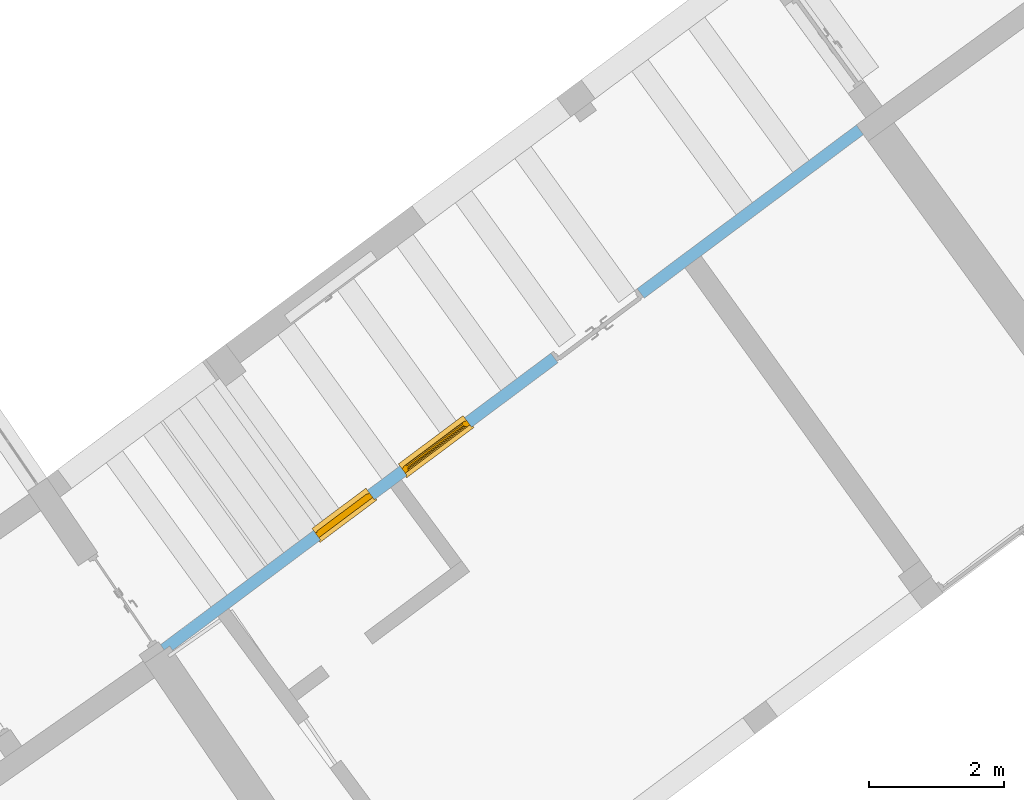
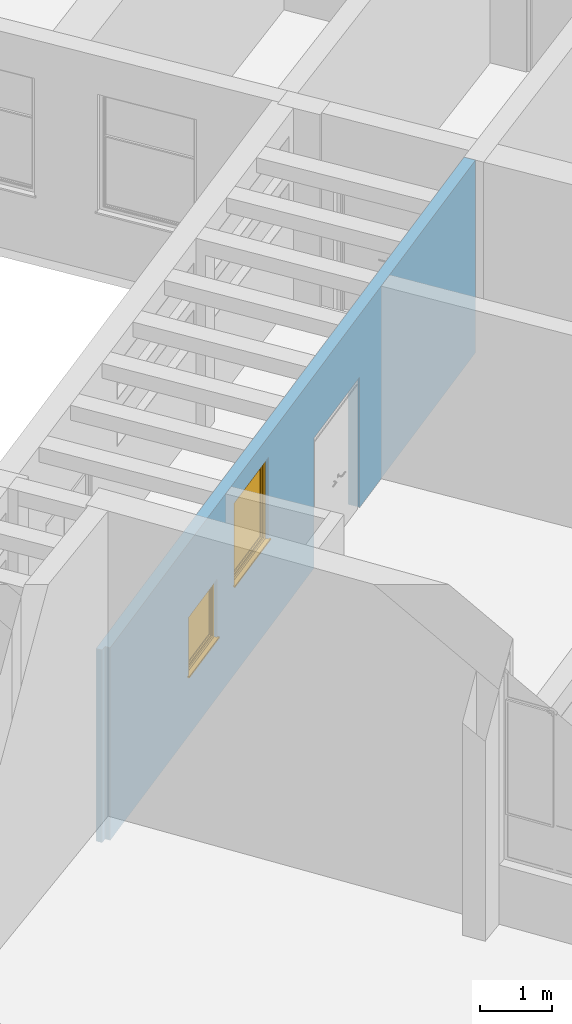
"""IFC2X3 building model written with IfcOpenShell, lengths in millimetres."""

from ifc_helpers import new_model, entity, si_unit, converted_unit, derived_unit, direction, frame, frame_2d, origin, place, context, subcontext, project, spatial, polyline, rectangle, outline, extrude, faceted_brep, source, transform, mapped, material, material_list, layer, layer_set, layer_usage, type_object, type_shapes, element, fill, save


model = new_model("IFC2X3")

# Units and contexts
model_context = context("Model", 3, precision=0.01, world=origin(), true_north=direction((6.123031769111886e-17, 1.0)))
body_context = subcontext(model_context, "Body", "Model", "MODEL_VIEW")
ifc_project = project(units=[si_unit("LENGTHUNIT", "METRE", prefix="MILLI"), si_unit("AREAUNIT", "SQUARE_METRE"), si_unit("VOLUMEUNIT", "CUBIC_METRE"), converted_unit("PLANEANGLEUNIT", "DEGREE", entity("IfcRatioMeasure", 0.017453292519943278), si_unit("PLANEANGLEUNIT", "RADIAN"), dimensions=[0, 0, 0, 0, 0, 0, 0]), si_unit("MASSUNIT", "GRAM", prefix="KILO"), derived_unit("MASSDENSITYUNIT", [(si_unit("MASSUNIT", "GRAM", prefix="KILO"), 1), (si_unit("LENGTHUNIT", "METRE"), -3)]), derived_unit("MOMENTOFINERTIAUNIT", [(si_unit("LENGTHUNIT", "METRE"), 4)]), si_unit("TIMEUNIT", "SECOND"), si_unit("FREQUENCYUNIT", "HERTZ"), si_unit("THERMODYNAMICTEMPERATUREUNIT", "DEGREE_CELSIUS"), derived_unit("THERMALTRANSMITTANCEUNIT", [(si_unit("MASSUNIT", "GRAM", prefix="KILO"), 1), (si_unit("THERMODYNAMICTEMPERATUREUNIT", "KELVIN"), -1), (si_unit("TIMEUNIT", "SECOND"), -3)]), derived_unit("THERMALCONDUCTANCEUNIT", [(si_unit("MASSUNIT", "GRAM", prefix="KILO"), 1), (si_unit("LENGTHUNIT", "METRE"), 1), (si_unit("THERMODYNAMICTEMPERATUREUNIT", "KELVIN"), -1), (si_unit("TIMEUNIT", "SECOND"), -3)]), derived_unit("VOLUMETRICFLOWRATEUNIT", [(si_unit("LENGTHUNIT", "METRE"), 3), (si_unit("TIMEUNIT", "SECOND"), -1)]), derived_unit("MASSFLOWRATEUNIT", [(si_unit("MASSUNIT", "GRAM", prefix="KILO"), 1), (si_unit("TIMEUNIT", "SECOND"), -1)]), derived_unit("ROTATIONALFREQUENCYUNIT", [(si_unit("TIMEUNIT", "SECOND"), -1)]), si_unit("ELECTRICCURRENTUNIT", "AMPERE"), si_unit("ELECTRICVOLTAGEUNIT", "VOLT"), si_unit("POWERUNIT", "WATT"), converted_unit("FORCEUNIT", "KIP", entity("IfcRatioMeasure", 2.088543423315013e-05), si_unit("FORCEUNIT", "NEWTON"), dimensions=[1, 1, -2, 0, 0, 0, 0]), si_unit("ILLUMINANCEUNIT", "LUX"), si_unit("LUMINOUSFLUXUNIT", "LUMEN"), si_unit("LUMINOUSINTENSITYUNIT", "CANDELA"), derived_unit("USERDEFINED", [(si_unit("MASSUNIT", "GRAM", prefix="KILO"), -1), (si_unit("LENGTHUNIT", "METRE"), -2), (si_unit("TIMEUNIT", "SECOND"), 3), (si_unit("LUMINOUSFLUXUNIT", "LUMEN"), 1)]), derived_unit("USERDEFINED", [(si_unit("MASSUNIT", "GRAM", prefix="KILO"), 1), (si_unit("LENGTHUNIT", "METRE"), 3), (si_unit("TIMEUNIT", "SECOND"), -3), (si_unit("ELECTRICCURRENTUNIT", "AMPERE"), -2)]), derived_unit("USERDEFINED", [(si_unit("LENGTHUNIT", "METRE"), 2), (si_unit("TIMEUNIT", "SECOND"), -2)]), derived_unit("SOUNDPOWERUNIT", [(si_unit("MASSUNIT", "GRAM", prefix="KILO"), 1), (si_unit("LENGTHUNIT", "METRE"), 2), (si_unit("TIMEUNIT", "SECOND"), -3)]), derived_unit("SOUNDPRESSUREUNIT", [(si_unit("MASSUNIT", "GRAM", prefix="KILO"), 1), (si_unit("LENGTHUNIT", "METRE"), -1), (si_unit("TIMEUNIT", "SECOND"), -2)]), derived_unit("LINEARVELOCITYUNIT", [(si_unit("LENGTHUNIT", "METRE"), 1), (si_unit("TIMEUNIT", "SECOND"), -1)]), si_unit("PRESSUREUNIT", "PASCAL"), derived_unit("USERDEFINED", [(si_unit("LENGTHUNIT", "METRE"), -2), (si_unit("MASSUNIT", "GRAM", prefix="KILO"), 1), (si_unit("TIMEUNIT", "SECOND"), -2)]), derived_unit("LINEARFORCEUNIT", [(si_unit("MASSUNIT", "GRAM", prefix="KILO"), 1), (si_unit("LENGTHUNIT", "METRE"), 1), (si_unit("TIMEUNIT", "SECOND"), -2), (si_unit("LENGTHUNIT", "METRE"), -1)]), derived_unit("PLANARFORCEUNIT", [(si_unit("MASSUNIT", "GRAM", prefix="KILO"), 1), (si_unit("LENGTHUNIT", "METRE"), 1), (si_unit("TIMEUNIT", "SECOND"), -2), (si_unit("LENGTHUNIT", "METRE"), -2)]), derived_unit("SPECIFICHEATCAPACITYUNIT", [(si_unit("LENGTHUNIT", "METRE"), 2), (si_unit("TIMEUNIT", "SECOND"), -2), (si_unit("THERMODYNAMICTEMPERATUREUNIT", "KELVIN"), -1)]), derived_unit("VAPORPERMEABILITYUNIT", [(si_unit("TIMEUNIT", "SECOND"), 1), (si_unit("LENGTHUNIT", "METRE"), -1)]), derived_unit("DYNAMICVISCOSITYUNIT", [(si_unit("MASSUNIT", "GRAM", prefix="KILO"), 1), (si_unit("LENGTHUNIT", "METRE"), -1), (si_unit("TIMEUNIT", "SECOND"), -1)]), derived_unit("THERMALEXPANSIONCOEFFICIENTUNIT", [(si_unit("THERMODYNAMICTEMPERATUREUNIT", "KELVIN"), -1)])], contexts=[model_context])

# Site, building, storey
site_placement = place(None, frame((0.0, 0.0, 0.0), z_axis=(0.0, 0.0, 1.0), x_axis=(0.8191520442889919, 0.5735764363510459, 0.0)))
site = spatial("IfcSite", under=ifc_project, at=site_placement, Name="Default", CompositionType="ELEMENT")
building_placement = place(site_placement, origin())
building = spatial("IfcBuilding", under=site, at=building_placement, CompositionType="ELEMENT")
storey_1_placement = place(building_placement, origin())
storey_1 = spatial("IfcBuildingStorey", under=building, at=storey_1_placement, Name="1.EG +0.00", CompositionType="ELEMENT", Elevation=-4.331468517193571e-12)

# Wall, openings
ifc_material_1 = material(Name="Analytical Wall Surface_CJC")
ifc_layer = layer(ifc_material_1, 175.0)
ifc_layer_set = layer_set([ifc_layer], Name="Basic Wall:Wand_Innen_17.5")
ifc_layer_usage = layer_usage(ifc_layer_set, "AXIS2", "NEGATIVE", 87.5)
wall_type = type_object("IfcWallType", Name="Basic Wall:Wand_Innen_17.5", PredefinedType="STANDARD", material=ifc_layer_set)
wall_placement = place(storey_1_placement, frame((-204127.0083827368, 164083.89984704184, -750.0), z_axis=(0.0, 0.0, 1.0), x_axis=(0.9995321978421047, 0.03058407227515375, 0.0)))
wall = element("IfcWallStandardCase", 1, at=wall_placement, inside=storey_1, type_object=wall_type, material=ifc_layer_usage, Name="Basic Wall:Wand_Innen_17.5", ObjectType="Basic Wall:Wand_Innen_17.5", context=body_context, shape_type="SweptSolid", body=[
    extrude(outline(polyline([(92.5002583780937, -87.50000000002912), (12888.477915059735, -87.49999999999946), (12888.47791505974, 87.50000000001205), (0.0, 87.49999999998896), (-4.121258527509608, -7.57841471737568), (95.87067545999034, -9.743676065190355), (92.5002583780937, -87.50000000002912)])), origin(), (0.0, 0.0, 1.0), 3250.000000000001),
])
opening_1_placement = place(wall_placement, frame((8828.477915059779, 87.5000000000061, 0.0)))
element("IfcOpeningElement", 2, at=opening_1_placement, cuts=wall, Name="M_Door-Passage-Double-Flush:150x210:1", ObjectType="Opening", context=body_context, shape_type="SweptSolid", body=[
    extrude(rectangle(XDim=2200.0, YDim=1599.999999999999, at=frame_2d((1100.0, 799.9999999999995), x_axis=(1.0, 0.0))), frame((0.0, 0.0, 0.0), z_axis=(0.0, -1.0, 0.0), x_axis=(0.0, 0.0, 1.0)), (0.0, 0.0, 1.0), 175.0),
])
opening_2_placement = place(wall_placement, frame((2832.0113738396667, -87.5000000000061, 1000.0)))
opening_2 = element("IfcOpeningElement", 3, at=opening_2_placement, cuts=wall, Name="Windows_Sgl_Plain:100x100:1", ObjectType="Opening", context=body_context, shape_type="SweptSolid", body=[
    extrude(rectangle(XDim=1000.0000000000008, YDim=1000.0000000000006, at=frame_2d((500.0000000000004, 500.000000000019), x_axis=(-1.0, 0.0))), frame((0.0, 0.0, 0.0), z_axis=(0.0, 1.0, 0.0), x_axis=(0.0, 0.0, 1.0)), (0.0, 0.0, 1.0), 175.0),
])
opening_3_placement = place(wall_placement, frame((4432.011373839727, -87.50000000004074, 1500.0)))
opening_3 = element("IfcOpeningElement", 4, at=opening_3_placement, cuts=wall, Name="Windows_Sgl_Plain:120x140:1", ObjectType="Opening", context=body_context, shape_type="SweptSolid", body=[
    extrude(rectangle(XDim=1400.000000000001, YDim=1200.0000000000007, at=frame_2d((700.0000000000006, 600.000000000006), x_axis=(-1.0, 0.0))), frame((0.0, 0.0, 0.0), z_axis=(0.0, 1.0, 0.0), x_axis=(0.0, 0.0, 1.0)), (0.0, 0.0, 1.0), 175.0),
])

# Storey
storey_2_placement = place(building_placement, frame((0.0, 0.0, -1150.0)))
storey_2 = spatial("IfcBuildingStorey", under=building, at=storey_2_placement, Name="6.EG KH -1.15", CompositionType="ELEMENT", Elevation=-1150.0000000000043)

# Window
ifc_material_2 = material(Name="Window Frame")
ifc_material_3 = material(Name="Glass")
ifc_material_list = material_list([ifc_material_2, ifc_material_3])
window_style_1 = type_object("IfcWindowStyle", Name="Windows_Sgl_Plain:100x100", ConstructionType="NOTDEFINED", OperationType="SINGLE_PANEL", ParameterTakesPrecedence=False, Sizeable=False, material=ifc_material_list)
shared_shape_1 = source(origin(), body_context, "Body", "Brep", [
    faceted_brep([(-25.0, -25.0, 0.0), (-25.0, 0.0, 0.0), (0.0, 0.0, 0.0), (0.0, 42.0, 0.0), (1000.0, 42.0, 0.0), (1000.0, 0.0, 0.0), (1025.0, 0.0, 0.0), (1025.0, -25.0, 0.0), (-25.0, -25.0, 25.0), (1025.0, -25.0, 25.0), (1025.0, 0.0, 25.0), (1000.0, 0.0, 25.0), (1000.0, 42.0, 25.0), (0.0, 42.0, 25.0), (0.0, 0.0, 25.0), (-25.0, 0.0, 25.0)], [[[0, 1, 2, 3, 4, 5, 6, 7]], [[8, 9, 10, 11, 12, 13, 14, 15]], [[1, 0, 8, 15]], [[2, 1, 15, 14]], [[3, 2, 14, 13]], [[4, 3, 13, 12]], [[5, 4, 12, 11]], [[6, 5, 11, 10]], [[7, 6, 10, 9]], [[0, 7, 9, 8]]]),
    faceted_brep([(0.0, 42.0, 0.0), (1000.0, 42.0, 0.0), (1000.0, 42.0, 1000.0), (0.0, 42.0, 1000.0), (60.0, 42.0, 940.0), (940.0, 42.0, 940.0), (940.0, 42.0, 75.0), (60.0, 42.0, 75.0), (0.0, 125.0, 1000.0), (0.0, 125.0, 51.0), (0.0, 140.0, 49.68767004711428), (0.0, 140.0, 44.744967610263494), (0.0, 212.50000000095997, 33.80888466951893), (0.0, 212.50000000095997, 0.0), (1000.0, 125.0, 1000.0), (1000.0, 125.0, 51.0), (40.0, 125.0, 960.0), (40.0, 125.0, 63.0), (960.0, 125.0, 63.0), (960.0, 125.0, 960.0), (40.0, 60.0, 960.0), (40.0, 60.0, 63.0), (60.0, 60.0, 940.0), (60.0, 60.0, 75.0), (940.0, 60.0, 75.0), (940.0, 60.0, 940.0), (960.0, 60.0, 960.0), (960.0, 60.0, 63.0), (1000.0, 212.50000000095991, 0.0), (1000.0, 212.50000000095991, 33.80888466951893), (1000.0, 140.0, 44.744967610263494), (1000.0, 140.0, 49.68767004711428)], [[[0, 1, 2, 3], [4, 5, 6, 7]], [[0, 3, 8, 9, 10, 11, 12, 13]], [[9, 8, 14, 15], [16, 17, 18, 19]], [[17, 16, 20, 21]], [[22, 23, 24, 25], [20, 26, 27, 21]], [[22, 4, 7, 23]], [[3, 2, 14, 8]], [[16, 19, 26, 20]], [[5, 4, 22, 25]], [[15, 14, 2, 1, 28, 29, 30, 31]], [[19, 18, 27, 26]], [[5, 25, 24, 6]], [[28, 1, 0, 13]], [[29, 28, 13, 12]], [[30, 29, 12, 11]], [[31, 30, 11, 10]], [[15, 31, 10, 9]], [[21, 27, 18, 17]], [[7, 6, 24, 23]]], outer=[[True, False], [True], [True, False], [True], [False, True], [True], [True], [True], [True], [True], [True], [True], [True], [True], [True], [True], [True], [True], [True]]),
    faceted_brep([(70.0, 89.0, 93.0), (930.0, 89.0, 93.0), (930.0, 89.0, 930.0), (70.0, 89.0, 930.0), (70.0, 113.0, 93.0), (70.0, 113.0, 930.0), (930.0, 113.0, 930.0), (930.0, 113.0, 93.0)], [[[0, 1, 2, 3]], [[4, 5, 6, 7]], [[1, 0, 4, 7]], [[2, 1, 7, 6]], [[3, 2, 6, 5]], [[0, 3, 5, 4]]]),
    faceted_brep([(30.0, 125.0, 970.0), (30.0, 130.7735026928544, 970.0), (30.0, 130.7735026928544, 53.0), (30.0, 125.0, 53.0), (40.0, 60.0, 960.0), (40.0, 125.0, 960.0), (40.0, 125.0, 63.0), (40.0, 60.0, 63.0), (80.0, 74.49289985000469, 920.0), (69.85196227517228, 60.0, 930.1480377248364), (69.85196227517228, 60.0, 92.85196227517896), (80.0, 74.49289985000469, 103.0), (80.0, 89.0, 920.0), (80.0, 89.0, 103.0), (70.0, 113.0, 930.0), (70.0, 89.0, 930.0), (70.0, 89.0, 93.0), (70.0, 113.0, 93.0), (80.0, 130.77350269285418, 920.0), (80.0, 113.0, 920.0), (80.0, 113.0, 103.0), (80.0, 130.77350269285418, 103.0), (62.554245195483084, 136.5470053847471, 937.445754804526), (62.554245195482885, 136.5470053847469, 85.55424519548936), (40.78460969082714, 136.54700538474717, 959.2153903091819), (40.78460969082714, 136.54700538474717, 63.78460969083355), (970.0, 130.7735026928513, 53.0), (970.0, 125.0, 53.0), (960.0, 125.0, 63.0), (960.0, 60.0, 63.0), (930.1480377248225, 60.0, 92.85196227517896), (920.0, 74.49289985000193, 103.0), (920.0, 89.0, 103.0), (930.0, 89.0, 93.0), (930.0, 113.0, 93.0), (920.0, 113.0, 103.0), (920.0, 130.77350269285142, 103.0), (937.4457548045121, 136.54700538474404, 85.55424519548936), (959.2153903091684, 136.54700538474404, 63.78460969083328), (970.0, 130.7735026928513, 970.0), (970.0, 125.0, 970.0), (960.0, 125.0, 960.0), (960.0, 60.0, 960.0), (930.1480377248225, 60.0, 930.1480377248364), (920.0, 74.49289985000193, 920.0), (920.0, 89.0, 920.0), (930.0, 89.0, 930.0), (930.0, 113.0, 930.0), (920.0, 113.0, 920.0), (920.0, 130.77350269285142, 920.0), (937.4457548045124, 136.5470053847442, 937.4457548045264), (959.2153903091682, 136.54700538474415, 959.2153903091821)], [[[0, 1, 2, 3]], [[4, 5, 6, 7]], [[8, 9, 10, 11]], [[12, 8, 11, 13]], [[14, 15, 16, 17]], [[18, 19, 20, 21]], [[22, 18, 21, 23]], [[1, 24, 25, 2]], [[3, 2, 26, 27]], [[7, 6, 28, 29]], [[11, 10, 30, 31]], [[13, 11, 31, 32]], [[17, 16, 33, 34]], [[21, 20, 35, 36]], [[23, 21, 36, 37]], [[2, 25, 38, 26]], [[27, 26, 39, 40]], [[29, 28, 41, 42]], [[31, 30, 43, 44]], [[32, 31, 44, 45]], [[34, 33, 46, 47]], [[36, 35, 48, 49]], [[37, 36, 49, 50]], [[26, 38, 51, 39]], [[40, 39, 1, 0]], [[3, 27, 40, 0], [5, 41, 28, 6]], [[42, 41, 5, 4]], [[7, 29, 42, 4], [9, 43, 30, 10]], [[44, 43, 9, 8]], [[45, 44, 8, 12]], [[13, 32, 45, 12], [15, 46, 33, 16]], [[47, 46, 15, 14]], [[17, 34, 47, 14], [19, 48, 35, 20]], [[49, 48, 19, 18]], [[50, 49, 18, 22]], [[23, 37, 50, 22], [24, 51, 38, 25]], [[39, 51, 24, 1]]], outer=[[True], [True], [True], [True], [True], [True], [True], [True], [True], [True], [True], [True], [True], [True], [True], [True], [True], [True], [True], [True], [True], [True], [True], [True], [True], [True, False], [True], [True, False], [True], [True], [False, True], [True], [True, False], [True], [True], [False, True], [True]]),
])
type_shapes(window_style_1, [shared_shape_1])
window_1_placement = place(opening_2_placement, origin())
window_1 = element("IfcWindow", 5, at=window_1_placement, inside=storey_2, type_object=window_style_1, material=ifc_material_list, Name="Windows_Sgl_Plain:100x100", ObjectType="Windows_Sgl_Plain:100x100", OverallHeight=1000.0000000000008, OverallWidth=1000.0000000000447, context=body_context, shape_type="MappedRepresentation", body=[
    mapped(shared_shape_1, transform((0.0, 0.0, 0.0), scale=1.0)),
])

fill(opening_2, window_1)

window_style_2 = type_object("IfcWindowStyle", Name="Windows_Sgl_Plain:120x140", ConstructionType="NOTDEFINED", OperationType="SINGLE_PANEL", ParameterTakesPrecedence=False, Sizeable=False, material=ifc_material_list)
shared_shape_2 = source(origin(), body_context, "Body", "Brep", [
    faceted_brep([(-25.0, -25.0, 0.0), (-25.0, 0.0, 0.0), (0.0, 0.0, 0.0), (0.0, 42.0, 0.0), (1200.0, 42.0, 0.0), (1200.0, 0.0, 0.0), (1225.0, 0.0, 0.0), (1225.0, -25.0, 0.0), (-25.0, -25.0, 25.0), (1225.0, -25.0, 25.0), (1225.0, 0.0, 25.0), (1200.0, 0.0, 25.0), (1200.0, 42.0, 25.0), (0.0, 42.0, 25.0), (0.0, 0.0, 25.0), (-25.0, 0.0, 25.0)], [[[0, 1, 2, 3, 4, 5, 6, 7]], [[8, 9, 10, 11, 12, 13, 14, 15]], [[1, 0, 8, 15]], [[2, 1, 15, 14]], [[3, 2, 14, 13]], [[4, 3, 13, 12]], [[5, 4, 12, 11]], [[6, 5, 11, 10]], [[7, 6, 10, 9]], [[0, 7, 9, 8]]]),
    faceted_brep([(0.0, 42.0, 0.0), (1200.0, 42.0, 0.0), (1200.0, 42.0, 1400.0), (0.0, 42.0, 1400.0), (60.0, 42.0, 1340.0), (1140.0, 42.0, 1340.0), (1140.0, 42.0, 75.0), (60.0, 42.0, 75.0), (0.0, 125.0, 1400.0), (0.0, 125.0, 51.0), (0.0, 140.0, 49.68767004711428), (0.0, 140.0, 44.744967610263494), (0.0, 212.50000000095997, 33.80888466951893), (0.0, 212.50000000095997, 0.0), (1200.0, 125.0, 1400.0), (1200.0, 125.0, 51.0), (40.0, 125.0, 1360.0), (40.0, 125.0, 63.0), (1160.0, 125.0, 63.0), (1160.0, 125.0, 1360.0), (40.0, 60.0, 1360.0), (40.0, 60.0, 63.0), (60.0, 60.0, 1340.0), (60.0, 60.0, 75.0), (1140.0, 60.0, 75.0), (1140.0, 60.0, 1340.0), (1160.0, 60.0, 1360.0), (1160.0, 60.0, 63.0), (1200.0, 212.50000000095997, 0.0), (1200.0, 212.50000000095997, 33.8088846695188), (1200.0, 140.0, 44.74496761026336), (1200.0, 140.0, 49.687670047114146)], [[[0, 1, 2, 3], [4, 5, 6, 7]], [[0, 3, 8, 9, 10, 11, 12, 13]], [[9, 8, 14, 15], [16, 17, 18, 19]], [[17, 16, 20, 21]], [[22, 23, 24, 25], [20, 26, 27, 21]], [[22, 4, 7, 23]], [[3, 2, 14, 8]], [[16, 19, 26, 20]], [[5, 4, 22, 25]], [[15, 14, 2, 1, 28, 29, 30, 31]], [[19, 18, 27, 26]], [[5, 25, 24, 6]], [[28, 1, 0, 13]], [[29, 28, 13, 12]], [[30, 29, 12, 11]], [[31, 30, 11, 10]], [[15, 31, 10, 9]], [[21, 27, 18, 17]], [[7, 6, 24, 23]]], outer=[[True, False], [True], [True, False], [True], [False, True], [True], [True], [True], [True], [True], [True], [True], [True], [True], [True], [True], [True], [True], [True]]),
    faceted_brep([(70.0, 89.0, 93.0), (1130.0, 89.0, 93.0), (1130.0, 89.0, 1330.0), (70.0, 89.0, 1330.0), (70.0, 113.0, 93.0), (70.0, 113.0, 1330.0), (1130.0, 113.0, 1330.0), (1130.0, 113.0, 93.0)], [[[0, 1, 2, 3]], [[4, 5, 6, 7]], [[1, 0, 4, 7]], [[2, 1, 7, 6]], [[3, 2, 6, 5]], [[0, 3, 5, 4]]]),
    faceted_brep([(30.0, 125.0, 1370.0), (30.0, 130.77350269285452, 1370.0), (30.0, 130.77350269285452, 53.0), (30.0, 125.0, 53.0), (40.0, 60.0, 1360.0), (40.0, 125.0, 1360.0), (40.0, 125.0, 63.0), (40.0, 60.0, 63.0), (80.0, 74.49289985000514, 1320.0), (69.85196227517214, 60.0, 1330.1480377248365), (69.85196227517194, 60.0, 92.85196227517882), (80.0, 74.49289985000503, 103.0), (80.0, 89.0, 1320.0), (80.0, 89.0, 103.0), (70.0, 113.0, 1330.0), (70.0, 89.0, 1330.0), (70.0, 89.0, 93.0), (70.0, 113.0, 93.0), (80.0, 130.7735026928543, 1320.0), (80.0, 113.0, 1320.0), (80.0, 113.0, 103.0), (80.0, 130.7735026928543, 103.0), (62.55424519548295, 136.54700538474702, 1337.4457548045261), (62.55424519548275, 136.54700538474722, 85.55424519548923), (40.784609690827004, 136.54700538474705, 1359.215390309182), (40.78460969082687, 136.54700538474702, 63.78460969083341), (1170.0, 130.77350269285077, 53.0), (1170.0, 125.0, 53.0), (1160.0, 125.0, 63.0), (1160.0, 60.0, 63.0), (1130.1480377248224, 60.0, 92.85196227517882), (1120.0, 74.49289985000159, 103.0), (1120.0, 89.0, 103.0), (1130.0, 89.0, 93.0), (1130.0, 113.0, 93.0), (1120.0, 113.0, 103.0), (1120.0, 130.77350269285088, 103.0), (1137.4457548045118, 136.54700538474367, 85.5542451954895), (1159.2153903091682, 136.54700538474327, 63.78460969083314), (1170.0, 130.77350269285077, 1370.0), (1170.0, 125.0, 1370.0), (1160.0, 125.0, 1360.0), (1160.0, 60.0, 1360.0), (1130.1480377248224, 60.0, 1330.148037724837), (1120.0, 74.49289985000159, 1320.0), (1120.0, 89.0, 1320.0), (1130.0, 89.0, 1330.0), (1130.0, 113.0, 1330.0), (1120.0, 113.0, 1320.0), (1120.0, 130.77350269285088, 1320.0), (1137.4457548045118, 136.54700538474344, 1337.4457548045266), (1159.2153903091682, 136.54700538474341, 1359.2153903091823)], [[[0, 1, 2, 3]], [[4, 5, 6, 7]], [[8, 9, 10, 11]], [[12, 8, 11, 13]], [[14, 15, 16, 17]], [[18, 19, 20, 21]], [[22, 18, 21, 23]], [[1, 24, 25, 2]], [[3, 2, 26, 27]], [[7, 6, 28, 29]], [[11, 10, 30, 31]], [[13, 11, 31, 32]], [[17, 16, 33, 34]], [[21, 20, 35, 36]], [[23, 21, 36, 37]], [[2, 25, 38, 26]], [[27, 26, 39, 40]], [[29, 28, 41, 42]], [[31, 30, 43, 44]], [[32, 31, 44, 45]], [[34, 33, 46, 47]], [[36, 35, 48, 49]], [[37, 36, 49, 50]], [[26, 38, 51, 39]], [[40, 39, 1, 0]], [[3, 27, 40, 0], [5, 41, 28, 6]], [[42, 41, 5, 4]], [[7, 29, 42, 4], [9, 43, 30, 10]], [[44, 43, 9, 8]], [[45, 44, 8, 12]], [[13, 32, 45, 12], [15, 46, 33, 16]], [[47, 46, 15, 14]], [[17, 34, 47, 14], [19, 48, 35, 20]], [[49, 48, 19, 18]], [[50, 49, 18, 22]], [[23, 37, 50, 22], [24, 51, 38, 25]], [[39, 51, 24, 1]]], outer=[[True], [True], [True], [True], [True], [True], [True], [True], [True], [True], [True], [True], [True], [True], [True], [True], [True], [True], [True], [True], [True], [True], [True], [True], [True], [True, False], [True], [True, False], [True], [True], [False, True], [True], [True, False], [True], [True], [False, True], [True]]),
])
type_shapes(window_style_2, [shared_shape_2])
window_2_placement = place(opening_3_placement, origin())
window_2 = element("IfcWindow", 6, at=window_2_placement, inside=storey_2, type_object=window_style_2, material=ifc_material_list, Name="Windows_Sgl_Plain:120x140", ObjectType="Windows_Sgl_Plain:120x140", OverallHeight=1400.0000000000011, OverallWidth=1200.0000000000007, context=body_context, shape_type="MappedRepresentation", body=[
    mapped(shared_shape_2, transform((0.0, 0.0, 0.0), scale=1.0)),
])

fill(opening_3, window_2)

save(model, "model.ifc")
